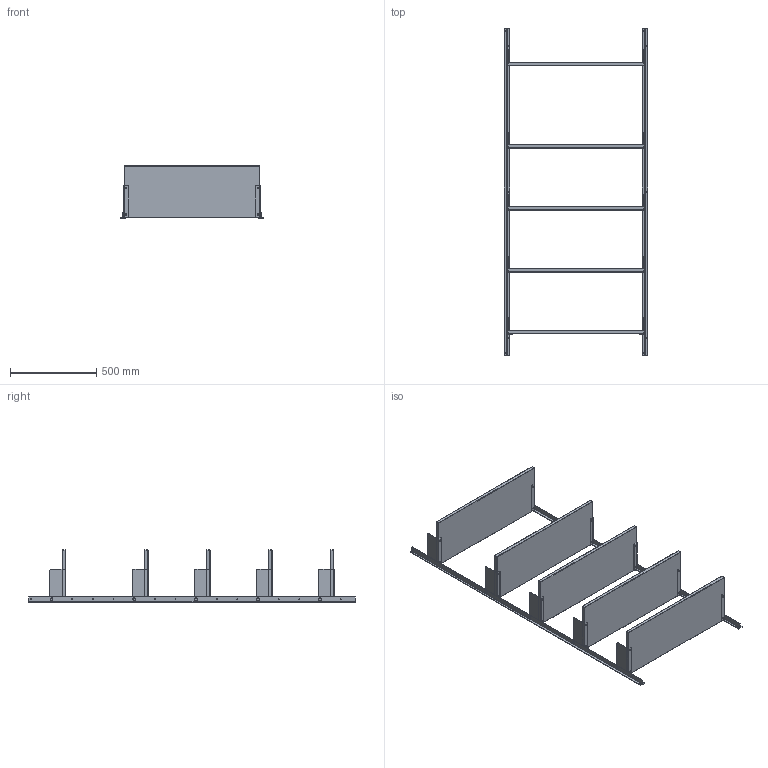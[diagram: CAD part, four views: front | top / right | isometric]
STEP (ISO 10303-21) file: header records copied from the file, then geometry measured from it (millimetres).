
FILE_DESCRIPTION (( 'STEP AP214' ), '1' );
FILE_NAME ('FW 1900.STEP', '2022-04-25T09:28:06', ( '' ), ( '' ), 'SwSTEP 2.0', 'SolidWorks 2021', '' );
FILE_SCHEMA (( 'AUTOMOTIVE_DESIGN' ));
Length unit declared in the file: millimetre
Products named in the file (9): 419 8002; 419 9030; FW 1900; 419 9001; 419 9005; 419 9006; DIN 467 M4.stp; DIN 653 M4 12 mm.stp; M3x5x4 Threaded Insert
Assembly tree (18 placements, depth 3):
  FW 1900
    419 9030  x2
    419 8002  x5
      419 9001
      419 9005
      419 9006
      DIN 467 M4.stp
      DIN 653 M4 12 mm.stp
      M3x5x4 Threaded Insert
Bounding box: 832.6 x 1896 x 303.3 mm (x, y, z)
Volume: 24724327.1 mm3; surface area: 3491968.2 mm2
Topology: 57 solids, 57 shells, 10774 faces, 23650 edges, 13120 vertices
Faces by surface type: plane 4190, cone 3920, cylinder 2504, torus 160
Entity records: 31607 total; most frequent: CARTESIAN_POINT 6773, DIRECTION 5323, ORIENTED_EDGE 5238, EDGE_CURVE 2619, AXIS2_PLACEMENT_3D 2246, VERTEX_POINT 1464, EDGE_LOOP 1249, FACE_OUTER_BOUND 1180
